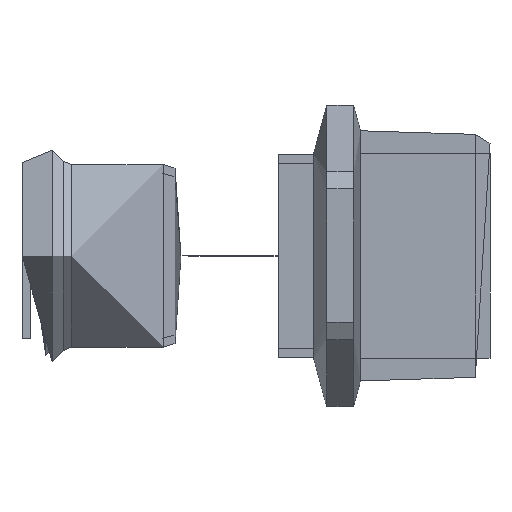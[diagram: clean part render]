
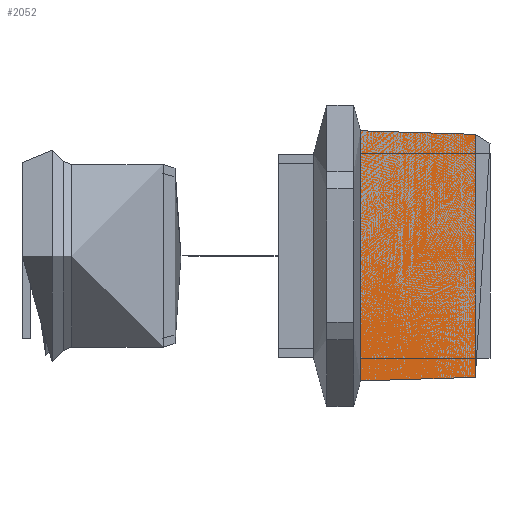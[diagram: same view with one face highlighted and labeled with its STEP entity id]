
A CAD part, top view. The second image highlights one B-rep face of the part: STEP entity #2052.
In plain terms, the highlighted free-form (B-spline) face has degree [1, 2] with [2, 9] control points.
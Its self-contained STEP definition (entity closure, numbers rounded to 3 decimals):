
#1963 = EDGE_CURVE('',#1964,#1966,#1968,.T.);
#1964 = VERTEX_POINT('',#1965);
#1965 = CARTESIAN_POINT('',(-20.636,2.499,
    0.));
#1966 = VERTEX_POINT('',#1967);
#1967 = CARTESIAN_POINT('',(20.636,2.499,0.));
#1968 = ( BOUNDED_CURVE() B_SPLINE_CURVE(2,(#1969,#1970,#1971,#1972,
#1973),.UNSPECIFIED.,.F.,.F.) B_SPLINE_CURVE_WITH_KNOTS((3,2,3),(
    -3.142,-1.571,0.),.UNSPECIFIED.) 
CURVE() GEOMETRIC_REPRESENTATION_ITEM() RATIONAL_B_SPLINE_CURVE((1.,
0.707,1.,0.707,1.)) REPRESENTATION_ITEM('') );
#1969 = CARTESIAN_POINT('',(-20.636,2.499,
    0.));
#1970 = CARTESIAN_POINT('',(-20.636,2.499,
    -20.636));
#1971 = CARTESIAN_POINT('',(0.,2.499,-20.636));
#1972 = CARTESIAN_POINT('',(20.636,2.499,
    -20.636));
#1973 = CARTESIAN_POINT('',(20.636,2.499,
    0.));
#1975 = EDGE_CURVE('',#1966,#1964,#1976,.T.);
#1976 = ( BOUNDED_CURVE() B_SPLINE_CURVE(2,(#1977,#1978,#1979,#1980,
#1981),.UNSPECIFIED.,.F.,.F.) B_SPLINE_CURVE_WITH_KNOTS((3,2,3),(
    0.,1.571,3.142),.UNSPECIFIED.) 
CURVE() GEOMETRIC_REPRESENTATION_ITEM() RATIONAL_B_SPLINE_CURVE((1.,
0.707,1.,0.707,1.)) REPRESENTATION_ITEM('') );
#1977 = CARTESIAN_POINT('',(20.636,2.499,
    0.));
#1978 = CARTESIAN_POINT('',(20.636,2.499,20.636
    ));
#1979 = CARTESIAN_POINT('',(0.,2.499,
    20.636));
#1980 = CARTESIAN_POINT('',(-20.636,2.499,
    20.636));
#1981 = CARTESIAN_POINT('',(-20.636,2.499,
    0.));
#2052 = ADVANCED_FACE('',(#2053),#2083,.T.);
#2053 = FACE_BOUND('',#2054,.T.);
#2054 = EDGE_LOOP('',(#2055,#2067,#2075,#2080,#2081,#2082));
#2055 = ORIENTED_EDGE('',*,*,#2056,.F.);
#2056 = EDGE_CURVE('',#2057,#2059,#2061,.T.);
#2057 = VERTEX_POINT('',#2058);
#2058 = CARTESIAN_POINT('',(-21.246,22.,0.));
#2059 = VERTEX_POINT('',#2060);
#2060 = CARTESIAN_POINT('',(21.246,22.,0.));
#2061 = ( BOUNDED_CURVE() B_SPLINE_CURVE(2,(#2062,#2063,#2064,#2065,
#2066),.UNSPECIFIED.,.F.,.F.) B_SPLINE_CURVE_WITH_KNOTS((3,2,3),(0.,
1.571,3.142),.UNSPECIFIED.) CURVE() 
GEOMETRIC_REPRESENTATION_ITEM() RATIONAL_B_SPLINE_CURVE((1.,
0.707,1.,0.707,1.)) REPRESENTATION_ITEM('') );
#2062 = CARTESIAN_POINT('',(-21.246,22.,0.));
#2063 = CARTESIAN_POINT('',(-21.246,22.,21.246));
#2064 = CARTESIAN_POINT('',(0.,22.,21.246));
#2065 = CARTESIAN_POINT('',(21.246,22.,21.246));
#2066 = CARTESIAN_POINT('',(21.246,22.,0.));
#2067 = ORIENTED_EDGE('',*,*,#2068,.F.);
#2068 = EDGE_CURVE('',#2059,#2057,#2069,.T.);
#2069 = ( BOUNDED_CURVE() B_SPLINE_CURVE(2,(#2070,#2071,#2072,#2073,
#2074),.UNSPECIFIED.,.F.,.F.) B_SPLINE_CURVE_WITH_KNOTS((3,2,3),(
    3.142,4.712,6.283),
.PIECEWISE_BEZIER_KNOTS.) CURVE() GEOMETRIC_REPRESENTATION_ITEM() 
RATIONAL_B_SPLINE_CURVE((1.,0.707,1.,0.707,1.)) 
REPRESENTATION_ITEM('') );
#2070 = CARTESIAN_POINT('',(21.246,22.,0.));
#2071 = CARTESIAN_POINT('',(21.246,22.,-21.246));
#2072 = CARTESIAN_POINT('',(0.,22.,-21.246));
#2073 = CARTESIAN_POINT('',(-21.246,22.,-21.246));
#2074 = CARTESIAN_POINT('',(-21.246,22.,0.));
#2075 = ORIENTED_EDGE('',*,*,#2076,.T.);
#2076 = EDGE_CURVE('',#2059,#1966,#2077,.T.);
#2077 = B_SPLINE_CURVE_WITH_KNOTS('',1,(#2078,#2079),.UNSPECIFIED.,.F.,
  .F.,(2,2),(-0.527,0.407),.PIECEWISE_BEZIER_KNOTS.);
#2078 = CARTESIAN_POINT('',(21.246,22.,0.));
#2079 = CARTESIAN_POINT('',(20.636,2.499,0.));
#2080 = ORIENTED_EDGE('',*,*,#1963,.F.);
#2081 = ORIENTED_EDGE('',*,*,#1975,.F.);
#2082 = ORIENTED_EDGE('',*,*,#2076,.F.);
#2083 = ( BOUNDED_SURFACE() B_SPLINE_SURFACE(1,2,(
    (#2084,#2085,#2086,#2087,#2088,#2089,#2090,#2091,#2092)
    ,(#2093,#2094,#2095,#2096,#2097,#2098,#2099,#2100,#2101
)),.UNSPECIFIED.,.F.,.T.,.F.) B_SPLINE_SURFACE_WITH_KNOTS((2,2),(1,2,2,2
    ,2,2,1),(-0.407,0.527),(-4.712,
    -3.142,-1.571,0.,1.571,3.142,
4.712),.UNSPECIFIED.) GEOMETRIC_REPRESENTATION_ITEM() 
RATIONAL_B_SPLINE_SURFACE((
    (1.,0.707,1.,0.707,1.,0.707,1.
      ,0.707,1.)
    ,(1.,0.707,1.,0.707,1.,0.707,1.
,0.707,1.))) REPRESENTATION_ITEM('') SURFACE() );
#2084 = CARTESIAN_POINT('',(21.246,22.,0.));
#2085 = CARTESIAN_POINT('',(21.246,22.,-21.246));
#2086 = CARTESIAN_POINT('',(0.,22.,-21.246));
#2087 = CARTESIAN_POINT('',(-21.246,22.,-21.246));
#2088 = CARTESIAN_POINT('',(-21.246,22.,0.));
#2089 = CARTESIAN_POINT('',(-21.246,22.,21.246));
#2090 = CARTESIAN_POINT('',(0.,22.,21.246));
#2091 = CARTESIAN_POINT('',(21.246,22.,21.246));
#2092 = CARTESIAN_POINT('',(21.246,22.,0.));
#2093 = CARTESIAN_POINT('',(20.636,2.499,0.));
#2094 = CARTESIAN_POINT('',(20.636,2.499,
    -20.636));
#2095 = CARTESIAN_POINT('',(0.,2.499,-20.636));
#2096 = CARTESIAN_POINT('',(-20.636,2.499,
    -20.636));
#2097 = CARTESIAN_POINT('',(-20.636,2.499,0.));
#2098 = CARTESIAN_POINT('',(-20.636,2.499,
    20.636));
#2099 = CARTESIAN_POINT('',(0.,2.499,20.636));
#2100 = CARTESIAN_POINT('',(20.636,2.499,20.636
    ));
#2101 = CARTESIAN_POINT('',(20.636,2.499,0.));
